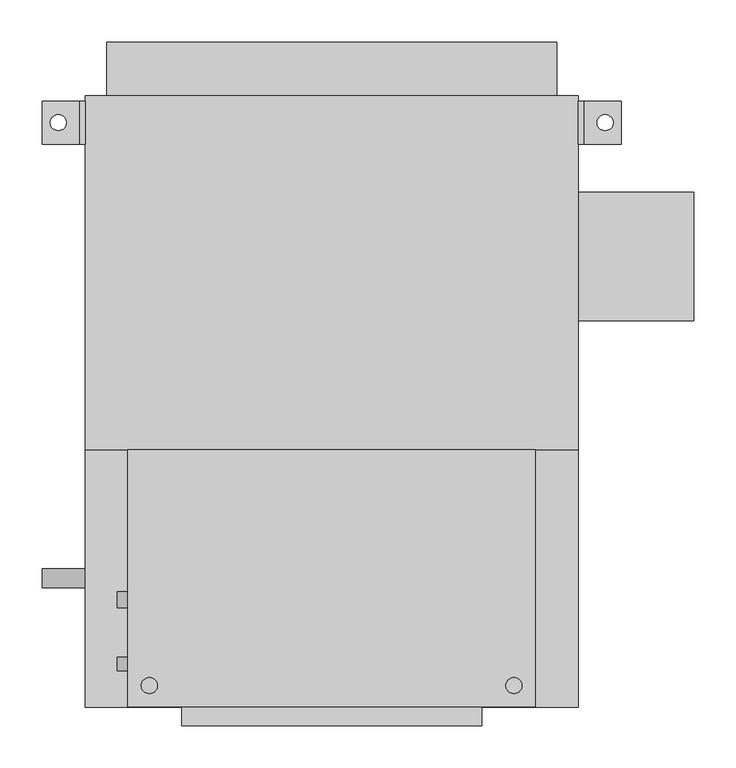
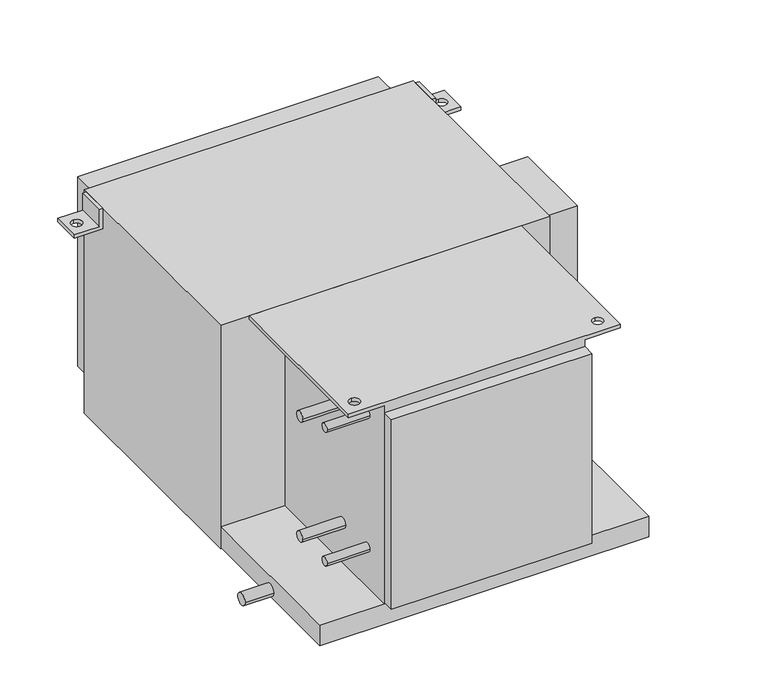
"""IFC4 building model written with IfcOpenShell, lengths in millimetres: proxy geometry, Concealed_High_Capacity_Horizontal_Fan_Coil_Unit_With_Plenum_-_42DCA_-_CARRIER_-_4-Pipe_LH_2022 : Size 06 - 277v/60Hz/1Ph - 6/2 Coil."""

import ifcopenshell
import ifcopenshell.guid

model = None  # the IFC model being written
_history = None  # IfcOwnerHistory: only IFC2X3 demands one
_inside = {}  # id of a spatial element -> (the spatial element, [elements in it])
_under = {}  # id of a project, library or spatial element -> (it, [spatial elements below it])
_declared = {}  # id of a project -> (the project, [libraries it declares])
_typed = {}  # id of a type object -> (the type object, [elements of that type])
_made_of = {}  # id of a material, layer set ... -> (it, [elements and type objects made of it])


def new_model(schema):
    """Start an empty IFC model of exactly this schema.

    Asked for "IFC4X3", IfcOpenShell would pick the latest addendum, in which some entities
    have other attributes; the version numbers below select the first issue.
    IFC2X3 requires an IfcOwnerHistory on every rooted entity: one is made here for all.
    """
    global model, _history
    if schema == "IFC4X3":
        model = ifcopenshell.file(schema_version=(4, 3, 0, 0))
    else:
        model = ifcopenshell.file(schema=schema)
    _inside.clear()
    _under.clear()
    _declared.clear()
    _typed.clear()
    _made_of.clear()
    _history = None
    if model.schema == "IFC2X3":
        org = make("IfcOrganization", Name="unknown")
        user = make(
            "IfcPersonAndOrganization",
            ThePerson=make("IfcPerson", FamilyName="unknown"),
            TheOrganization=org,
        )
        app = make(
            "IfcApplication",
            ApplicationDeveloper=org,
            Version="unknown",
            ApplicationFullName="unknown",
            ApplicationIdentifier="unknown",
        )
        _history = make(
            "IfcOwnerHistory",
            OwningUser=user,
            OwningApplication=app,
            ChangeAction="ADDED",
            CreationDate=0,
        )
    return model


def make(cls, **values):
    """One entity of the class cls with the attributes given. An attribute that is None is left unset."""
    return model.create_entity(
        cls, **{name: value for name, value in values.items() if value is not None}
    )


def rooted(cls, **values):
    """An entity with a GlobalId (a new one), such as an element, a storey or a relation."""
    return make(cls, GlobalId=ifcopenshell.guid.new(), OwnerHistory=_history, **values)


def si_unit(unit_type, name, prefix=None):
    """IfcSIUnit, for example si_unit("LENGTHUNIT", "METRE", prefix="MILLI")."""
    return make("IfcSIUnit", UnitType=unit_type, Prefix=prefix, Name=name)


def assignment(units):
    """IfcUnitAssignment: the units of a project."""
    return None if units is None else make("IfcUnitAssignment", Units=units)


def point(xyz):
    """IfcCartesianPoint."""
    return None if xyz is None else make("IfcCartesianPoint", Coordinates=xyz)


def direction(xyz):
    """IfcDirection."""
    return None if xyz is None else make("IfcDirection", DirectionRatios=xyz)


def frame(location, z_axis=None, x_axis=None):
    """IfcAxis2Placement3D, a coordinate frame: its origin and axes. An axis left out is left unset."""
    return make(
        "IfcAxis2Placement3D",
        Location=point(location),
        Axis=direction(z_axis),
        RefDirection=direction(x_axis),
    )


def frame_2d(location, x_axis=None):
    """IfcAxis2Placement2D, a coordinate frame in the plane: its origin and x axis."""
    return make(
        "IfcAxis2Placement2D", Location=point(location), RefDirection=direction(x_axis)
    )


def origin():
    """The frame at (0, 0, 0) with its axes left unset."""
    return frame((0.0, 0.0, 0.0))


def place(relative_to, where):
    """IfcLocalPlacement: puts the frame where relative to a parent placement (None: the world)."""
    return make(
        "IfcLocalPlacement", PlacementRelTo=relative_to, RelativePlacement=where
    )


def context(
    kind, dimensions, precision=None, world=None, true_north=None, identifier=None
):
    """IfcGeometricRepresentationContext, for example the 3D "Model" context."""
    return make(
        "IfcGeometricRepresentationContext",
        ContextIdentifier=identifier,
        ContextType=kind,
        CoordinateSpaceDimension=dimensions,
        Precision=precision,
        WorldCoordinateSystem=world,
        TrueNorth=true_north,
    )


def project(units=None, contexts=None):
    """IfcProject with its units and contexts."""
    return rooted(
        "IfcProject",
        Name="project",
        RepresentationContexts=contexts,
        UnitsInContext=assignment(units),
    )


def spatial(cls, under=None, at=None, **own):
    """A site, building, storey or space (cls), placed at a placement, below another one or the project."""
    s = rooted(cls, ObjectPlacement=at, **own)
    if under is not None:
        _under.setdefault(under.id(), (under, []))[1].append(s)
    return s


def polyline(points):
    """IfcPolyline through the points."""
    return make("IfcPolyline", Points=[point(p) for p in points])


def circle_curve(where, radius):
    """IfcCircle in the frame where."""
    return make("IfcCircle", Position=where, Radius=radius)


def trimmed(basis, trim1, trim2, sense, master):
    """IfcTrimmedCurve: the piece of a basis curve between two trims."""
    return make(
        "IfcTrimmedCurve",
        BasisCurve=basis,
        Trim1=trim1,
        Trim2=trim2,
        SenseAgreement=sense,
        MasterRepresentation=master,
    )


def segment(curve, same_sense, transition):
    """IfcCompositeCurveSegment."""
    return make(
        "IfcCompositeCurveSegment",
        Transition=transition,
        SameSense=same_sense,
        ParentCurve=curve,
    )


def composite_curve(segments, self_intersect=None):
    """IfcCompositeCurve: segments joined end to end."""
    return make("IfcCompositeCurve", Segments=segments, SelfIntersect=self_intersect)


def outline(outer, holes=None, kind="AREA"):
    """IfcArbitraryClosedProfileDef: a profile drawn as a closed curve; with holes, ...WithVoids."""
    if holes is None:
        return make("IfcArbitraryClosedProfileDef", ProfileType=kind, OuterCurve=outer)
    return make(
        "IfcArbitraryProfileDefWithVoids",
        ProfileType=kind,
        OuterCurve=outer,
        InnerCurves=holes,
    )


def extrude(swept, where, along, depth):
    """IfcExtrudedAreaSolid: the profile swept, set in the frame where, extruded along a direction by depth."""
    return make(
        "IfcExtrudedAreaSolid",
        SweptArea=swept,
        Position=where,
        ExtrudedDirection=direction(along),
        Depth=depth,
    )


def shape(context_of_items, identifier, shape_type, items):
    """IfcShapeRepresentation: the items that make up one representation, for example the "Body"."""
    return make(
        "IfcShapeRepresentation",
        ContextOfItems=context_of_items,
        RepresentationIdentifier=identifier,
        RepresentationType=shape_type,
        Items=items,
    )


def source(mapping_origin, context_of_items, identifier, shape_type, items):
    """IfcRepresentationMap: a shape defined once, which mapped items show again and again."""
    return make(
        "IfcRepresentationMap",
        MappingOrigin=mapping_origin,
        MappedRepresentation=shape(context_of_items, identifier, shape_type, items),
    )


def transform(
    local_origin,
    x_axis=None,
    y_axis=None,
    z_axis=None,
    scale=None,
    scale2=None,
    scale3=None,
    uniform=True,
):
    """IfcCartesianTransformationOperator3D, or its non-uniform kind. x_axis, y_axis, z_axis: its Axis1, 2, 3."""
    if uniform:
        return make(
            "IfcCartesianTransformationOperator3D",
            Axis1=direction(x_axis),
            Axis2=direction(y_axis),
            LocalOrigin=point(local_origin),
            Scale=scale,
            Axis3=direction(z_axis),
        )
    return make(
        "IfcCartesianTransformationOperator3DnonUniform",
        Axis1=direction(x_axis),
        Axis2=direction(y_axis),
        LocalOrigin=point(local_origin),
        Scale=scale,
        Axis3=direction(z_axis),
        Scale2=scale2,
        Scale3=scale3,
    )


def mapped(mapping_source, mapping_target):
    """IfcMappedItem: shows the shape of a source again, moved by a transform."""
    return make(
        "IfcMappedItem", MappingSource=mapping_source, MappingTarget=mapping_target
    )


def made_of(thing, what):
    """Note that an element or type object is made of a material, layer set ...; save() writes the relation."""
    if what is not None:
        _made_of.setdefault(what.id(), (what, []))[1].append(thing)
    return thing


def element(
    cls,
    number,
    at=None,
    inside=None,
    cuts=None,
    type_object=None,
    material=None,
    context=None,
    identifier="Body",
    shape_type=None,
    held_by="IfcProductDefinitionShape",
    body=None,
    shapes=None,
    **own,
):
    """One element of the class cls, such as IfcWall. Its Tag is "e" and its number.

    at: its placement. inside: the storey or other place that contains it. cuts: it is an
    opening in that element (IfcRelVoidsElement). A single representation is given by context,
    identifier, shape_type and body (its items); several are given by shapes. held_by: the class
    of the entity that holds the representations. save() writes the other relations.
    """
    e = rooted(cls, Tag="e%d" % number, ObjectPlacement=at, **own)
    if body is not None:
        shapes = [shape(context, identifier, shape_type, body)]
    if shapes is not None:
        e.Representation = make(held_by, Representations=shapes)
    if inside is not None:
        _inside.setdefault(inside.id(), (inside, []))[1].append(e)
    if cuts is not None:
        rooted(
            "IfcRelVoidsElement", RelatingBuildingElement=cuts, RelatedOpeningElement=e
        )
    if type_object is not None:
        _typed.setdefault(type_object.id(), (type_object, []))[1].append(e)
    return made_of(e, material)


def aggregate(whole, parts):
    """IfcRelAggregates: a whole, such as a stair, and the parts it consists of."""
    return rooted("IfcRelAggregates", RelatingObject=whole, RelatedObjects=parts)


def save(model, path):
    """Write the relations noted so far, then the file.

    IfcRelAggregates (storeys below a building ...), IfcRelContainedInSpatialStructure (elements
    in a storey), IfcRelDefinesByType, IfcRelAssociatesMaterial and IfcRelDeclares: one each for
    every whole, place, type object, material and project.
    """
    for whole, parts in _under.values():
        aggregate(whole, parts)
    for where, things in _inside.values():
        rooted(
            "IfcRelContainedInSpatialStructure",
            RelatedElements=things,
            RelatingStructure=where,
        )
    for kind, things in _typed.values():
        rooted("IfcRelDefinesByType", RelatedObjects=things, RelatingType=kind)
    for what, things in _made_of.values():
        rooted("IfcRelAssociatesMaterial", RelatedObjects=things, RelatingMaterial=what)
    for by, libraries in _declared.values():
        rooted("IfcRelDeclares", RelatingContext=by, RelatedDefinitions=libraries)
    model.write(path)


def plane_surface(at):
    """IfcPlane: the flat surface through the origin of the frame at, square to its z axis."""
    return make("IfcPlane", Position=at)


def revolved_surface(curve, axis_point, axis_direction):
    """IfcSurfaceOfRevolution: the curve turned about the line through axis_point along axis_direction."""
    return make(
        "IfcSurfaceOfRevolution",
        SweptCurve=make("IfcArbitraryOpenProfileDef", ProfileType="CURVE", Curve=curve),
        AxisPosition=make("IfcAxis1Placement", Location=point(axis_point), Axis=direction(axis_direction)),
    )


def advanced_brep(points, edges, surfaces, faces):
    """IfcAdvancedBrep: a solid bounded by faces that lie on surfaces and meet in shared edges.

    An edge is (start, end): straight between two places in points (the first is 0);
    or (start, end, curve); or (start, end, curve, False) where it runs against its curve.
    A face is (place in surfaces, loops), or (place, loops, False) where it looks against
    its surface's normal. A loop lists edges by number (the first is 1), with a minus sign
    where the edge is run from its end to its start. The first loop is the outer one.
    """
    corners = [point(p) for p in points]
    vertices = [make("IfcVertexPoint", VertexGeometry=c) for c in corners]
    made = []
    for start, end, *more in edges:
        made.append(
            make(
                "IfcEdgeCurve",
                EdgeStart=vertices[start],
                EdgeEnd=vertices[end],
                EdgeGeometry=more[0] if more else make("IfcPolyline", Points=[corners[start], corners[end]]),
                SameSense=more[1] if len(more) > 1 else True,
            )
        )
    hull = []
    for where, loops, *sense in faces:
        bounds = []
        for j, loop in enumerate(loops):
            ring = [make("IfcOrientedEdge", EdgeElement=made[abs(k) - 1], Orientation=k > 0) for k in loop]
            bounds.append(
                make(
                    "IfcFaceOuterBound" if j == 0 else "IfcFaceBound",
                    Bound=make("IfcEdgeLoop", EdgeList=ring),
                    Orientation=True,
                )
            )
        hull.append(make("IfcAdvancedFace", Bounds=bounds, FaceSurface=surfaces[where], SameSense=sense[0] if sense else True))
    return make("IfcAdvancedBrep", Outer=make("IfcClosedShell", CfsFaces=hull))


def mechanical_equipment_5922c3ad(model_context):
    return source(origin(), model_context, "Body", "SolidModel", [
        advanced_brep(
        [(-88.9, -85.725, 0.0), (-88.9, -390.525, 0.0), (393.7, -390.525, 0.0), (393.7, -85.725, 0.0), (-63.5, -374.65, 0.0), (-63.5, -355.6, 0.0), (368.3, -374.65, 0.0), (368.3, -355.6, 0.0), (330.2, -85.725, -377.825), (330.2, -390.525, -377.825), (-25.4, -390.525, -377.825), (-25.4, -85.725, -377.825), (-25.4, -85.725, -6.35), (-88.9, -85.725, -6.35), (393.7, -85.725, -6.35), (330.2, -85.725, -6.35), (-25.4, -390.525, -6.35), (330.2, -390.525, -6.35), (393.7, -390.525, -6.35), (-88.9, -390.525, -6.35), (-63.5, -355.6, -6.35), (-63.5, -374.65, -6.35), (368.3, -355.6, -6.35), (368.3, -374.65, -6.35)],
        [
            (0, 1),
            (1, 2),
            (2, 3),
            (3, 0),
            (4, 5, circle_curve(frame((-63.5, -365.125, 0.0), z_axis=(0.0, 0.0, -1.0), x_axis=(0.0, 1.0, 0.0)), 9.525)),
            (5, 4, circle_curve(frame((-63.5, -365.125, 0.0), z_axis=(0.0, 0.0, -1.0), x_axis=(0.0, 1.0, 0.0)), 9.525)),
            (6, 7, circle_curve(frame((368.3, -365.125, 0.0), z_axis=(0.0, 0.0, -1.0), x_axis=(0.0, 1.0, 0.0)), 9.525)),
            (7, 6, circle_curve(frame((368.3, -365.125, 0.0), z_axis=(0.0, 0.0, -1.0), x_axis=(0.0, 1.0, 0.0)), 9.525)),
            (8, 9),
            (9, 10),
            (10, 11),
            (11, 8),
            (11, 12),
            (12, 13),
            (13, 0),
            (3, 14),
            (14, 15),
            (15, 8),
            (10, 16),
            (16, 12),
            (9, 17),
            (17, 18),
            (18, 2),
            (1, 19),
            (19, 16),
            (15, 17),
            (19, 13),
            (20, 21, circle_curve(frame((-63.5, -365.125, -6.35), z_axis=(0.0, 0.0, 1.0), x_axis=(0.0, 1.0, 0.0)), 9.525)),
            (21, 20, circle_curve(frame((-63.5, -365.125, -6.35), z_axis=(0.0, 0.0, 1.0), x_axis=(0.0, 1.0, 0.0)), 9.525)),
            (14, 18),
            (22, 23, circle_curve(frame((368.3, -365.125, -6.35), z_axis=(0.0, 0.0, 1.0), x_axis=(0.0, 1.0, 0.0)), 9.525)),
            (23, 22, circle_curve(frame((368.3, -365.125, -6.35), z_axis=(0.0, 0.0, 1.0), x_axis=(0.0, 1.0, 0.0)), 9.525)),
            (4, 21),
            (20, 5),
            (6, 23),
            (22, 7),
        ],
        [
            plane_surface(frame((-25.4, -85.725, 0.0), z_axis=(0.0, 0.0, 1.0), x_axis=(-1.0, 0.0, 0.0))),
            plane_surface(frame((-25.4, -85.725, -377.825), z_axis=(0.0, 0.0, -1.0), x_axis=(1.0, 0.0, 0.0))),
            plane_surface(frame((330.2, -85.725, 0.0), z_axis=(0.0, 1.0, 0.0), x_axis=(0.0, 0.0, -1.0))),
            plane_surface(frame((-25.4, -85.725, 0.0), z_axis=(-1.0, 0.0, 0.0), x_axis=(0.0, 0.0, -1.0))),
            plane_surface(frame((-25.4, -390.525, 0.0), z_axis=(0.0, -1.0, 0.0), x_axis=(0.0, 0.0, -1.0))),
            plane_surface(frame((330.2, -390.525, 0.0), z_axis=(1.0, 0.0, 0.0), x_axis=(0.0, 0.0, -1.0))),
            plane_surface(frame((-88.9, -85.725, -6.35), z_axis=(0.0, 0.0, -1.0), x_axis=(0.0, 1.0, 0.0))),
            plane_surface(frame((-88.9, -85.725, 0.0), z_axis=(-1.0, 0.0, 0.0), x_axis=(0.0, 0.0, -1.0))),
            plane_surface(frame((393.7, -390.525, 0.0), z_axis=(1.0, 0.0, 0.0), x_axis=(0.0, 0.0, -1.0))),
            revolved_surface(polyline([(-63.5, -355.6, -6.35), (-63.5, -355.6, 0.0)]), (-63.5, -365.125, 0.0), (0.0, 0.0, -1.0)),
            revolved_surface(polyline([(368.3, -355.6, -6.35), (368.3, -355.6, 0.0)]), (368.3, -365.125, 0.0), (0.0, 0.0, -1.0)),
        ],
        [
            (0, [[1, 2, 3, 4], [5, 6], [7, 8]]),
            (1, [[9, 10, 11, 12]]),
            (2, [[-12, 13, 14, 15, -4, 16, 17, 18]]),
            (3, [[-11, 19, 20, -13]]),
            (4, [[-10, 21, 22, 23, -2, 24, 25, -19]]),
            (5, [[-9, -18, 26, -21]]),
            (6, [[-14, -20, -25, 27], [28, 29]]),
            (6, [[30, -22, -26, -17], [31, 32]]),
            (7, [[-27, -24, -1, -15]]),
            (8, [[-30, -16, -3, -23]]),
            (9, [[33, -28, 34, -5]]),
            (9, [[-33, -6, -34, -29]]),
            (10, [[35, -31, 36, -7]]),
            (10, [[-35, -8, -36, -32]]),
        ],
    ),
        advanced_brep(
        [(-139.7, 327.025, -38.1), (-190.5, 327.025, -38.1), (-190.5, 327.025, -31.75), (-146.05, 327.025, -31.75), (-146.05, 327.025, 0.0), (-139.7, 327.025, 0.0), (-139.7, 276.225, -38.1), (-139.7, 276.225, 0.0), (-146.05, 276.225, 0.0), (-146.05, 276.225, -31.75), (-190.5, 276.225, -31.75), (-190.5, 276.225, -38.1), (-171.45, 292.1, -38.1), (-171.45, 311.15, -38.1), (-171.45, 311.15, -31.75), (-171.45, 292.1, -31.75)],
        [
            (0, 1),
            (1, 2),
            (2, 3),
            (3, 4),
            (4, 5),
            (5, 0),
            (6, 7),
            (7, 8),
            (8, 9),
            (9, 10),
            (10, 11),
            (11, 6),
            (0, 6),
            (11, 1),
            (12, 13, circle_curve(frame((-171.45, 301.625, -38.1), z_axis=(0.0, 0.0, 1.0), x_axis=(0.0, -1.0, 0.0)), 9.525)),
            (13, 12, circle_curve(frame((-171.45, 301.625, -38.1), z_axis=(0.0, 0.0, 1.0), x_axis=(0.0, -1.0, 0.0)), 9.525)),
            (10, 2),
            (9, 3),
            (14, 15, circle_curve(frame((-171.45, 301.625, -31.75), z_axis=(0.0, 0.0, -1.0), x_axis=(0.0, -1.0, 0.0)), 9.525)),
            (15, 14, circle_curve(frame((-171.45, 301.625, -31.75), z_axis=(0.0, 0.0, -1.0), x_axis=(0.0, -1.0, 0.0)), 9.525)),
            (8, 4),
            (7, 5),
            (14, 13),
            (12, 15),
        ],
        [
            plane_surface(frame((-139.7, 327.025, -38.1), z_axis=(0.0, 1.0, 0.0), x_axis=(-1.0, 0.0, 0.0))),
            plane_surface(frame((-139.7, 276.225, -38.1), z_axis=(0.0, -1.0, 0.0), x_axis=(1.0, 0.0, 0.0))),
            plane_surface(frame((-139.7, 327.025, -38.1), z_axis=(0.0, 0.0, -1.0), x_axis=(0.0, -1.0, 0.0))),
            plane_surface(frame((-190.5, 327.025, -38.1), z_axis=(-1.0, 0.0, 0.0), x_axis=(0.0, -1.0, 0.0))),
            plane_surface(frame((-190.5, 327.025, -31.75), z_axis=(0.0, 0.0, 1.0), x_axis=(0.0, -1.0, 0.0))),
            plane_surface(frame((-146.05, 327.025, -31.75), z_axis=(-1.0, 0.0, 0.0), x_axis=(0.0, -1.0, 0.0))),
            plane_surface(frame((-146.05, 327.025, 0.0), z_axis=(0.0, 0.0, 1.0), x_axis=(0.0, -1.0, 0.0))),
            plane_surface(frame((-139.7, 327.025, 0.0), z_axis=(1.0, 0.0, 0.0), x_axis=(0.0, -1.0, 0.0))),
            revolved_surface(polyline([(-171.45, 292.1, -38.1), (-171.45, 292.1, -31.75)]), (-171.45, 301.625, -31.75), (0.0, 0.0, -1.0)),
        ],
        [
            (0, [[1, 2, 3, 4, 5, 6]]),
            (1, [[7, 8, 9, 10, 11, 12]]),
            (2, [[-1, 13, -12, 14], [15, 16]]),
            (3, [[-2, -14, -11, 17]]),
            (4, [[-3, -17, -10, 18], [19, 20]]),
            (5, [[-4, -18, -9, 21]]),
            (6, [[-5, -21, -8, 22]]),
            (7, [[-6, -22, -7, -13]]),
            (8, [[23, -15, 24, -19]]),
            (8, [[-23, -20, -24, -16]]),
        ],
    ),
        advanced_brep(
        [(444.5, 327.025, -38.1), (444.5, 327.025, 0.0), (450.85, 327.025, 0.0), (450.85, 327.025, -31.75), (495.3, 327.025, -31.75), (495.3, 327.025, -38.1), (444.5, 276.225, -38.1), (495.3, 276.225, -38.1), (495.3, 276.225, -31.75), (450.85, 276.225, -31.75), (450.85, 276.225, 0.0), (444.5, 276.225, 0.0), (476.25, 311.15, -31.75), (476.25, 292.1, -31.75), (476.25, 292.1, -38.1), (476.25, 311.15, -38.1)],
        [
            (0, 1),
            (1, 2),
            (2, 3),
            (3, 4),
            (4, 5),
            (5, 0),
            (6, 7),
            (7, 8),
            (8, 9),
            (9, 10),
            (10, 11),
            (11, 6),
            (0, 6),
            (11, 1),
            (10, 2),
            (9, 3),
            (8, 4),
            (12, 13, circle_curve(frame((476.25, 301.625, -31.75), z_axis=(0.0, 0.0, -1.0), x_axis=(0.0, -1.0, 0.0)), 9.525)),
            (13, 12, circle_curve(frame((476.25, 301.625, -31.75), z_axis=(0.0, 0.0, -1.0), x_axis=(0.0, -1.0, 0.0)), 9.525)),
            (7, 5),
            (14, 15, circle_curve(frame((476.25, 301.625, -38.1), z_axis=(0.0, 0.0, 1.0), x_axis=(0.0, -1.0, 0.0)), 9.525)),
            (15, 14, circle_curve(frame((476.25, 301.625, -38.1), z_axis=(0.0, 0.0, 1.0), x_axis=(0.0, -1.0, 0.0)), 9.525)),
            (12, 15),
            (14, 13),
        ],
        [
            plane_surface(frame((-139.7, 327.025, -38.1), z_axis=(0.0, 1.0, 0.0), x_axis=(-1.0, 0.0, 0.0))),
            plane_surface(frame((-139.7, 276.225, -38.1), z_axis=(0.0, -1.0, 0.0), x_axis=(1.0, 0.0, 0.0))),
            plane_surface(frame((444.5, 327.025, -38.1), z_axis=(-1.0, 0.0, 0.0), x_axis=(0.0, -1.0, 0.0))),
            plane_surface(frame((444.5, 327.025, 0.0), z_axis=(0.0, 0.0, 1.0), x_axis=(0.0, -1.0, 0.0))),
            plane_surface(frame((450.85, 327.025, 0.0), z_axis=(1.0, 0.0, 0.0), x_axis=(0.0, -1.0, 0.0))),
            plane_surface(frame((450.85, 327.025, -31.75), z_axis=(0.0, 0.0, 1.0), x_axis=(0.0, -1.0, 0.0))),
            plane_surface(frame((495.3, 327.025, -31.75), z_axis=(1.0, 0.0, 0.0), x_axis=(0.0, -1.0, 0.0))),
            plane_surface(frame((495.3, 327.025, -38.1), z_axis=(0.0, 0.0, -1.0), x_axis=(0.0, -1.0, 0.0))),
            revolved_surface(polyline([(476.25, 292.1, -38.1), (476.25, 292.1, -31.75)]), (476.25, 301.625, -31.75), (0.0, 0.0, -1.0)),
        ],
        [
            (0, [[1, 2, 3, 4, 5, 6]]),
            (1, [[7, 8, 9, 10, 11, 12]]),
            (2, [[-1, 13, -12, 14]]),
            (3, [[-2, -14, -11, 15]]),
            (4, [[-3, -15, -10, 16]]),
            (5, [[-4, -16, -9, 17], [18, 19]]),
            (6, [[-5, -17, -8, 20]]),
            (7, [[-6, -20, -7, -13], [21, 22]]),
            (8, [[23, -21, 24, -18]]),
            (8, [[-23, -19, -24, -22]]),
        ],
    ),
        extrude(outline(polyline([(-114.3, 396.875), (419.1, 396.875), (419.1, 333.375), (-114.3, 333.375), (-114.3, 396.875)])), frame((0.0, 0.0, -377.825), z_axis=(0.0, 0.0, 1.0), x_axis=(1.0, 0.0, 0.0)), (0.0, 0.0, 1.0), 355.6),
        extrude(outline(composite_curve([segment(trimmed(circle_curve(frame_2d((-263.525, -76.2)), 9.525), [point((-273.05, -76.2))], [point((-254.0, -76.2))], False, "CARTESIAN"), True, "CONTINUOUS"), segment(trimmed(circle_curve(frame_2d((-263.525, -76.2)), 9.525), [point((-254.0, -76.2))], [point((-273.05, -76.2))], False, "CARTESIAN"), True, "CONTINUOUS")], self_intersect=False)), frame((-101.6, 0.0, 0.0), z_axis=(1.0, 0.0, 0.0), x_axis=(0.0, 1.0, 0.0)), (0.0, 0.0, 1.0), 76.2),
        extrude(outline(composite_curve([segment(trimmed(circle_curve(frame_2d((-263.525, -301.625)), 9.525), [point((-273.05, -301.625))], [point((-254.0, -301.625))], False, "CARTESIAN"), True, "CONTINUOUS"), segment(trimmed(circle_curve(frame_2d((-263.525, -301.625)), 9.525), [point((-254.0, -301.625))], [point((-273.05, -301.625))], False, "CARTESIAN"), True, "CONTINUOUS")], self_intersect=False)), frame((-101.6, 0.0, 0.0), z_axis=(1.0, 0.0, 0.0), x_axis=(0.0, 1.0, 0.0)), (0.0, 0.0, 1.0), 76.2),
        extrude(outline(composite_curve([segment(trimmed(circle_curve(frame_2d((-339.725, -50.8)), 7.9375), [point((-347.6625, -50.8))], [point((-331.7875, -50.8))], False, "CARTESIAN"), True, "CONTINUOUS"), segment(trimmed(circle_curve(frame_2d((-339.725, -50.8)), 7.9375), [point((-331.7875, -50.8))], [point((-347.6625, -50.8))], False, "CARTESIAN"), True, "CONTINUOUS")], self_intersect=False)), frame((-101.6, 0.0, 0.0), z_axis=(1.0, 0.0, 0.0), x_axis=(0.0, 1.0, 0.0)), (0.0, 0.0, 1.0), 76.2),
        extrude(outline(composite_curve([segment(trimmed(circle_curve(frame_2d((-339.725, -301.625)), 7.9375), [point((-347.6625, -301.625))], [point((-331.7875, -301.625))], False, "CARTESIAN"), True, "CONTINUOUS"), segment(trimmed(circle_curve(frame_2d((-339.725, -301.625)), 7.9375), [point((-331.7875, -301.625))], [point((-347.6625, -301.625))], False, "CARTESIAN"), True, "CONTINUOUS")], self_intersect=False)), frame((-101.6, 0.0, 0.0), z_axis=(1.0, 0.0, 0.0), x_axis=(0.0, 1.0, 0.0)), (0.0, 0.0, 1.0), 76.2),
        extrude(outline(composite_curve([segment(trimmed(circle_curve(frame_2d((-238.125, -403.225)), 11.1125), [point((-249.2375, -403.225))], [point((-227.0125, -403.225))], False, "CARTESIAN"), True, "CONTINUOUS"), segment(trimmed(circle_curve(frame_2d((-238.125, -403.225)), 11.1125), [point((-227.0125, -403.225))], [point((-249.2375, -403.225))], False, "CARTESIAN"), True, "CONTINUOUS")], self_intersect=False)), frame((-190.5, 0.0, 0.0), z_axis=(1.0, 0.0, 0.0), x_axis=(0.0, 1.0, 0.0)), (0.0, 0.0, 1.0), 50.8),
        extrude(outline(polyline([(581.025, 219.075), (581.025, 66.675), (444.5, 66.675), (444.5, 219.075), (581.025, 219.075)])), frame((0.0, 0.0, -273.05), z_axis=(0.0, 0.0, 1.0), x_axis=(1.0, 0.0, 0.0)), (0.0, 0.0, 1.0), 152.4),
        extrude(outline(polyline([(330.2, -412.75), (-25.4, -412.75), (-25.4, -390.525), (330.2, -390.525), (330.2, -412.75)])), frame((0.0, 0.0, -374.65), z_axis=(0.0, 0.0, 1.0), x_axis=(1.0, 0.0, 0.0)), (0.0, 0.0, 1.0), 355.6),
        extrude(outline(polyline([(444.5, -85.725), (-139.7, -85.725), (-139.7, 333.375), (444.5, 333.375), (444.5, -85.725)])), frame((0.0, 0.0, -419.1), z_axis=(0.0, 0.0, 1.0), x_axis=(1.0, 0.0, 0.0)), (0.0, 0.0, 1.0), 419.1),
        extrude(outline(polyline([(444.5, -85.725), (444.5, -390.525), (-139.7, -390.525), (-139.7, -85.725), (444.5, -85.725)])), frame((0.0, 0.0, -415.925), z_axis=(0.0, 0.0, 1.0), x_axis=(1.0, 0.0, 0.0)), (0.0, 0.0, 1.0), 38.1),
    ])


if __name__ == "__main__":
    model = new_model("IFC4")
    model_context = context("Model", 3, world=origin())
    ifc_project = project(units=[si_unit("LENGTHUNIT", "METRE", prefix="MILLI")], contexts=[model_context])
    site = spatial("IfcSite", under=ifc_project)
    building = spatial("IfcBuilding", under=site)
    placement = place(None, origin())
    mechanical_equipment_shape = mechanical_equipment_5922c3ad(model_context)
    element("IfcBuildingElementProxy", 1, Name="Concealed_High_Capacity_Horizontal_Fan_Coil_Unit_With_Plenum_-_42DCA_-_CARRIER_-_4-Pipe_LH_2022 : Size 06 - 277v/60Hz/1Ph - 6/2 Coil", ObjectType="Concealed_High_Capacity_Horizontal_Fan_Coil_Unit_With_Plenum_-_42DCA_-_CARRIER_-_4-Pipe_LH_2022 : Size 06 - 277v/60Hz/1Ph - 6/2 Coil", at=placement, inside=building, context=model_context, shape_type="MappedRepresentation", body=[
        mapped(mechanical_equipment_shape, transform((0.0, 0.0, 0.0), x_axis=(1.0, 0.0, 0.0), y_axis=(0.0, 1.0, 0.0), z_axis=(0.0, 0.0, 1.0))),
    ])
    save(model, "model.ifc")
